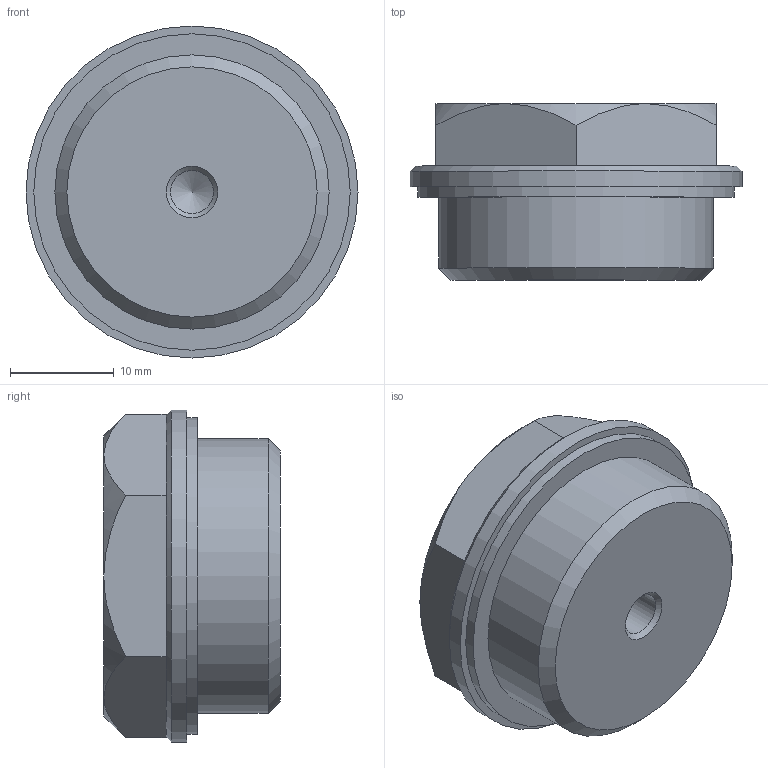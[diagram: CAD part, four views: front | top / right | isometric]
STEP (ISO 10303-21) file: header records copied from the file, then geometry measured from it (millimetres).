
FILE_DESCRIPTION( ( 'STEP AP203' ), '1' );
FILE_NAME( 'C:/Temp/Ganter_Step_05_03_2020/data/3_5/gn742/gn742_1/Threaded plug GN 742-32-G3_4-OS-1.stp', '2020-03-12T13:39:13', ( 'License CC BY-ND 4.0' ), ( 'CADENAS' ), ' ', 'PARTsolutions', ' ' );
FILE_SCHEMA( ( 'CONFIG_CONTROL_DESIGN' ) );
Length unit declared in the file: millimetre
Products named in the file (1): _Threaded plug GN 742-32-G3/4-OS-1
Bounding box: 32 x 17 x 32 mm (x, y, z)
Volume: 10234.8 mm3; surface area: 3168.4 mm2
Topology: 1 solids, 1 shells, 36 faces, 74 edges, 42 vertices
Faces by surface type: plane 22, cone 10, cylinder 4
Full cylindrical faces by diameter (mm): 4.134 x1, 26.441 x1, 30.5 x1, 32 x1
Entity records: 980 total; most frequent: CARTESIAN_POINT 226, DIRECTION 154, ORIENTED_EDGE 128, AXIS2_PLACEMENT_3D 65, EDGE_CURVE 64, EDGE_LOOP 46, VERTEX_POINT 41, FACE_OUTER_BOUND 40
